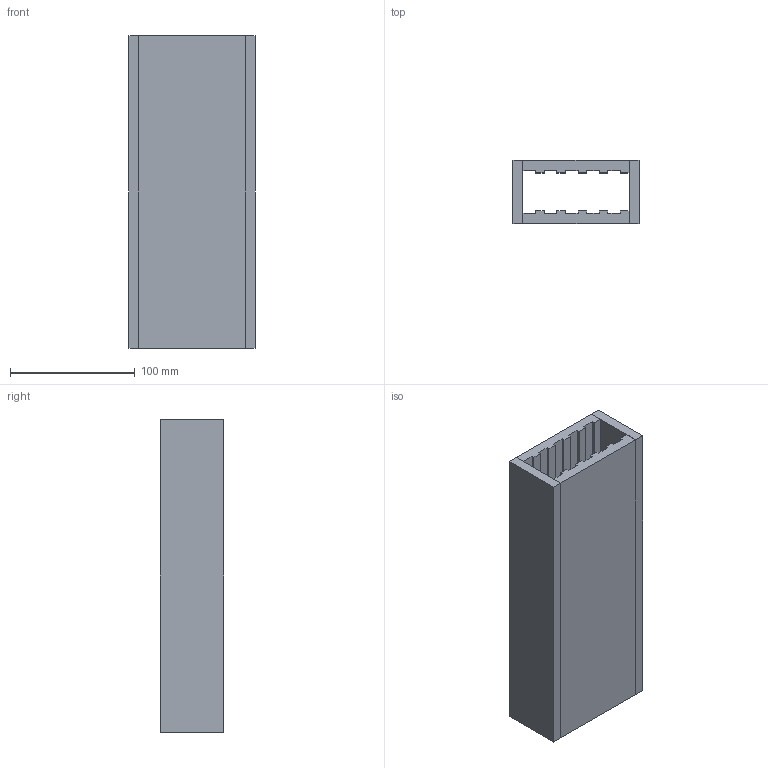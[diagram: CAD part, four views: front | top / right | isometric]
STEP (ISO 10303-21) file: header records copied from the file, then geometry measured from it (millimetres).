
FILE_DESCRIPTION (( 'STEP AP203' ), '1' );
FILE_NAME ('E1.S_15mm.STEP', '2021-08-02T20:59:08', ( '' ), ( '' ), 'SwSTEP 2.0', 'SolidWorks 2020', '' );
FILE_SCHEMA (( 'CONFIG_CONTROL_DESIGN' ));
Length unit declared in the file: millimetre
Products named in the file (3): SSD Wind Tunnel Fixture_SIDES_E1.S; E1.S_15mm; SSD Wind Tunnel Fixture_BASE_E1.S 15mm
Assembly tree (4 placements, depth 2):
  E1.S_15mm
    SSD Wind Tunnel Fixture_BASE_E1.S 15mm  x2
    SSD Wind Tunnel Fixture_SIDES_E1.S  x2
Bounding box: 101 x 50.5 x 250 mm (x, y, z)
Volume: 576250 mm3; surface area: 166110 mm2
Topology: 4 solids, 4 shells, 60 faces, 156 edges, 104 vertices
Faces by surface type: plane 60
Entity records: 1271 total; most frequent: CARTESIAN_POINT 167, ORIENTED_EDGE 156, DIRECTION 152, LINE 78, VECTOR 78, EDGE_CURVE 78, VERTEX_POINT 52, AXIS2_PLACEMENT_3D 37
